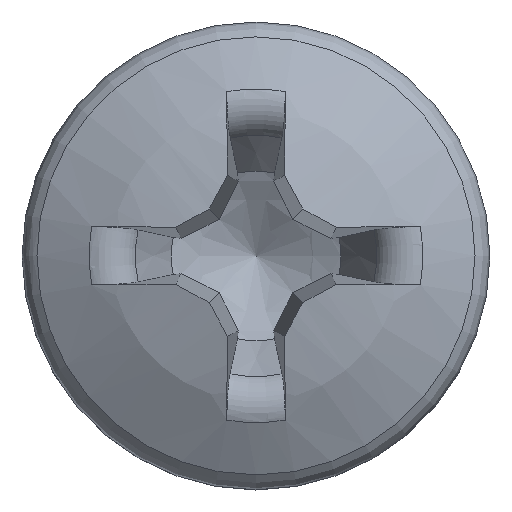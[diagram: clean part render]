
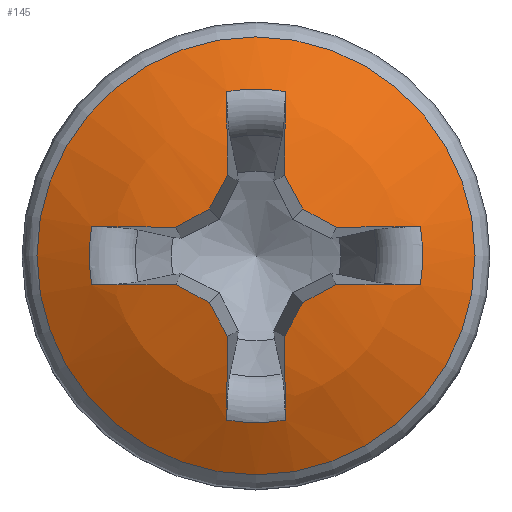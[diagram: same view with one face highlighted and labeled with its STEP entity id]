
A CAD part, top view. The second image highlights one B-rep face of the part: STEP entity #145.
In plain terms, the highlighted spherical face has radius 9.413 mm.
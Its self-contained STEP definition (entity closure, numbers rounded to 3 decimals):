
#116=SPHERICAL_SURFACE('',#881,9.413);
#127=FACE_BOUND('',#246,.T.);
#128=FACE_BOUND('',#247,.T.);
#145=ADVANCED_FACE('',(#127,#128),#116,.T.);
#246=EDGE_LOOP('',(#355));
#247=EDGE_LOOP('',(#356,#357,#358,#359,#360,#361,#362,#363,#364,#365,#366,
#367,#368,#369,#370,#371,#372,#373,#374,#375));
#305=CIRCLE('',#860,4.916);
#306=CIRCLE('',#861,9.41);
#307=CIRCLE('',#862,3.745);
#308=CIRCLE('',#863,9.41);
#309=CIRCLE('',#864,9.401);
#310=CIRCLE('',#865,9.401);
#311=CIRCLE('',#866,9.41);
#312=CIRCLE('',#867,3.745);
#313=CIRCLE('',#868,9.41);
#314=CIRCLE('',#869,9.401);
#315=CIRCLE('',#870,9.401);
#316=CIRCLE('',#871,9.41);
#317=CIRCLE('',#872,3.745);
#318=CIRCLE('',#873,9.41);
#319=CIRCLE('',#874,9.401);
#320=CIRCLE('',#875,9.401);
#321=CIRCLE('',#876,9.41);
#322=CIRCLE('',#877,3.745);
#323=CIRCLE('',#878,9.41);
#324=CIRCLE('',#879,9.401);
#325=CIRCLE('',#880,9.401);
#355=ORIENTED_EDGE('',*,*,#683,.T.);
#356=ORIENTED_EDGE('',*,*,#684,.F.);
#357=ORIENTED_EDGE('',*,*,#685,.T.);
#358=ORIENTED_EDGE('',*,*,#686,.F.);
#359=ORIENTED_EDGE('',*,*,#687,.F.);
#360=ORIENTED_EDGE('',*,*,#688,.F.);
#361=ORIENTED_EDGE('',*,*,#689,.F.);
#362=ORIENTED_EDGE('',*,*,#690,.T.);
#363=ORIENTED_EDGE('',*,*,#691,.F.);
#364=ORIENTED_EDGE('',*,*,#692,.F.);
#365=ORIENTED_EDGE('',*,*,#693,.F.);
#366=ORIENTED_EDGE('',*,*,#694,.F.);
#367=ORIENTED_EDGE('',*,*,#695,.T.);
#368=ORIENTED_EDGE('',*,*,#696,.F.);
#369=ORIENTED_EDGE('',*,*,#697,.F.);
#370=ORIENTED_EDGE('',*,*,#698,.F.);
#371=ORIENTED_EDGE('',*,*,#699,.F.);
#372=ORIENTED_EDGE('',*,*,#700,.T.);
#373=ORIENTED_EDGE('',*,*,#701,.F.);
#374=ORIENTED_EDGE('',*,*,#702,.F.);
#375=ORIENTED_EDGE('',*,*,#703,.F.);
#599=VERTEX_POINT('',#1371);
#600=VERTEX_POINT('',#1373);
#601=VERTEX_POINT('',#1374);
#602=VERTEX_POINT('',#1376);
#603=VERTEX_POINT('',#1378);
#604=VERTEX_POINT('',#1380);
#605=VERTEX_POINT('',#1382);
#606=VERTEX_POINT('',#1384);
#607=VERTEX_POINT('',#1386);
#608=VERTEX_POINT('',#1388);
#609=VERTEX_POINT('',#1390);
#610=VERTEX_POINT('',#1392);
#611=VERTEX_POINT('',#1394);
#612=VERTEX_POINT('',#1396);
#613=VERTEX_POINT('',#1398);
#614=VERTEX_POINT('',#1400);
#615=VERTEX_POINT('',#1402);
#616=VERTEX_POINT('',#1404);
#617=VERTEX_POINT('',#1406);
#618=VERTEX_POINT('',#1408);
#619=VERTEX_POINT('',#1410);
#683=EDGE_CURVE('',#599,#599,#305,.T.);
#684=EDGE_CURVE('',#600,#601,#306,.T.);
#685=EDGE_CURVE('',#600,#602,#307,.T.);
#686=EDGE_CURVE('',#603,#602,#308,.T.);
#687=EDGE_CURVE('',#604,#603,#309,.T.);
#688=EDGE_CURVE('',#605,#604,#310,.T.);
#689=EDGE_CURVE('',#606,#605,#311,.T.);
#690=EDGE_CURVE('',#606,#607,#312,.T.);
#691=EDGE_CURVE('',#608,#607,#313,.T.);
#692=EDGE_CURVE('',#609,#608,#314,.T.);
#693=EDGE_CURVE('',#610,#609,#315,.T.);
#694=EDGE_CURVE('',#611,#610,#316,.T.);
#695=EDGE_CURVE('',#611,#612,#317,.T.);
#696=EDGE_CURVE('',#613,#612,#318,.T.);
#697=EDGE_CURVE('',#614,#613,#319,.T.);
#698=EDGE_CURVE('',#615,#614,#320,.T.);
#699=EDGE_CURVE('',#616,#615,#321,.T.);
#700=EDGE_CURVE('',#616,#617,#322,.T.);
#701=EDGE_CURVE('',#618,#617,#323,.T.);
#702=EDGE_CURVE('',#619,#618,#324,.T.);
#703=EDGE_CURVE('',#601,#619,#325,.T.);
#860=AXIS2_PLACEMENT_3D('',#1370,#943,#944);
#861=AXIS2_PLACEMENT_3D('',#1372,#945,#946);
#862=AXIS2_PLACEMENT_3D('',#1375,#947,#948);
#863=AXIS2_PLACEMENT_3D('',#1377,#949,#950);
#864=AXIS2_PLACEMENT_3D('',#1379,#951,#952);
#865=AXIS2_PLACEMENT_3D('',#1381,#953,#954);
#866=AXIS2_PLACEMENT_3D('',#1383,#955,#956);
#867=AXIS2_PLACEMENT_3D('',#1385,#957,#958);
#868=AXIS2_PLACEMENT_3D('',#1387,#959,#960);
#869=AXIS2_PLACEMENT_3D('',#1389,#961,#962);
#870=AXIS2_PLACEMENT_3D('',#1391,#963,#964);
#871=AXIS2_PLACEMENT_3D('',#1393,#965,#966);
#872=AXIS2_PLACEMENT_3D('',#1395,#967,#968);
#873=AXIS2_PLACEMENT_3D('',#1397,#969,#970);
#874=AXIS2_PLACEMENT_3D('',#1399,#971,#972);
#875=AXIS2_PLACEMENT_3D('',#1401,#973,#974);
#876=AXIS2_PLACEMENT_3D('',#1403,#975,#976);
#877=AXIS2_PLACEMENT_3D('',#1405,#977,#978);
#878=AXIS2_PLACEMENT_3D('',#1407,#979,#980);
#879=AXIS2_PLACEMENT_3D('',#1409,#981,#982);
#880=AXIS2_PLACEMENT_3D('',#1411,#983,#984);
#881=AXIS2_PLACEMENT_3D('',#1412,#985,#986);
#943=DIRECTION('',(0.,0.,1.));
#944=DIRECTION('',(-1.,0.,0.));
#945=DIRECTION('',(-0.035,0.996,0.087));
#946=DIRECTION('',(0.,-0.087,0.996));
#947=DIRECTION('',(0.,0.,-1.));
#948=DIRECTION('',(-1.,0.,0.));
#949=DIRECTION('',(-0.035,-0.996,0.087));
#950=DIRECTION('',(0.,-0.087,-0.996));
#951=DIRECTION('',(0.467,-0.879,0.1));
#952=DIRECTION('',(0.883,0.469,0.));
#953=DIRECTION('',(0.879,-0.467,0.1));
#954=DIRECTION('',(0.469,0.883,0.));
#955=DIRECTION('',(0.996,0.035,0.087));
#956=DIRECTION('',(0.087,0.,-0.996));
#957=DIRECTION('',(0.,0.,-1.));
#958=DIRECTION('',(-1.,0.,0.));
#959=DIRECTION('',(-0.996,0.035,0.087));
#960=DIRECTION('',(0.087,0.,0.996));
#961=DIRECTION('',(-0.879,-0.467,0.1));
#962=DIRECTION('',(0.469,-0.883,0.));
#963=DIRECTION('',(-0.467,-0.879,0.1));
#964=DIRECTION('',(0.883,-0.469,0.));
#965=DIRECTION('',(0.035,-0.996,0.087));
#966=DIRECTION('',(0.,-0.087,-0.996));
#967=DIRECTION('',(0.,0.,-1.));
#968=DIRECTION('',(-1.,0.,0.));
#969=DIRECTION('',(0.035,0.996,0.087));
#970=DIRECTION('',(0.,-0.087,0.996));
#971=DIRECTION('',(-0.467,0.879,0.1));
#972=DIRECTION('',(-0.883,-0.469,0.));
#973=DIRECTION('',(-0.879,0.467,0.1));
#974=DIRECTION('',(-0.469,-0.883,0.));
#975=DIRECTION('',(-0.996,-0.035,0.087));
#976=DIRECTION('',(0.087,0.,0.996));
#977=DIRECTION('',(0.,0.,-1.));
#978=DIRECTION('',(-1.,0.,0.));
#979=DIRECTION('',(0.996,-0.035,0.087));
#980=DIRECTION('',(0.087,0.,-0.996));
#981=DIRECTION('',(0.879,0.467,0.1));
#982=DIRECTION('',(-0.469,0.883,0.));
#983=DIRECTION('',(0.467,0.879,0.1));
#984=DIRECTION('',(-0.883,0.469,0.));
#985=DIRECTION('',(0.,0.,1.));
#986=DIRECTION('',(0.,1.,0.));
#1370=CARTESIAN_POINT('',(0.,0.,2.615));
#1371=CARTESIAN_POINT('',(-4.916,0.,2.615));
#1372=CARTESIAN_POINT('',(-0.008,0.229,-5.393));
#1373=CARTESIAN_POINT('',(-3.687,-0.653,3.223));
#1374=CARTESIAN_POINT('',(-1.806,-0.638,3.803));
#1375=CARTESIAN_POINT('',(0.,0.,3.223));
#1376=CARTESIAN_POINT('',(-3.687,0.653,3.223));
#1377=CARTESIAN_POINT('',(-0.008,-0.229,-5.393));
#1378=CARTESIAN_POINT('',(-1.806,0.638,3.803));
#1379=CARTESIAN_POINT('',(-0.225,0.423,-5.461));
#1380=CARTESIAN_POINT('',(-1.05,1.05,3.882));
#1381=CARTESIAN_POINT('',(-0.423,0.225,-5.461));
#1382=CARTESIAN_POINT('',(-0.638,1.806,3.803));
#1383=CARTESIAN_POINT('',(0.229,0.008,-5.393));
#1384=CARTESIAN_POINT('',(-0.653,3.687,3.223));
#1385=CARTESIAN_POINT('',(0.,0.,3.223));
#1386=CARTESIAN_POINT('',(0.653,3.687,3.223));
#1387=CARTESIAN_POINT('',(-0.229,0.008,-5.393));
#1388=CARTESIAN_POINT('',(0.638,1.806,3.803));
#1389=CARTESIAN_POINT('',(0.423,0.225,-5.461));
#1390=CARTESIAN_POINT('',(1.05,1.05,3.882));
#1391=CARTESIAN_POINT('',(0.225,0.423,-5.461));
#1392=CARTESIAN_POINT('',(1.806,0.638,3.803));
#1393=CARTESIAN_POINT('',(0.008,-0.229,-5.393));
#1394=CARTESIAN_POINT('',(3.687,0.653,3.223));
#1395=CARTESIAN_POINT('',(0.,0.,3.223));
#1396=CARTESIAN_POINT('',(3.687,-0.653,3.223));
#1397=CARTESIAN_POINT('',(0.008,0.229,-5.393));
#1398=CARTESIAN_POINT('',(1.806,-0.638,3.803));
#1399=CARTESIAN_POINT('',(0.225,-0.423,-5.461));
#1400=CARTESIAN_POINT('',(1.05,-1.05,3.882));
#1401=CARTESIAN_POINT('',(0.423,-0.225,-5.461));
#1402=CARTESIAN_POINT('',(0.638,-1.806,3.803));
#1403=CARTESIAN_POINT('',(-0.229,-0.008,-5.393));
#1404=CARTESIAN_POINT('',(0.653,-3.687,3.223));
#1405=CARTESIAN_POINT('',(0.,0.,3.223));
#1406=CARTESIAN_POINT('',(-0.653,-3.687,3.223));
#1407=CARTESIAN_POINT('',(0.229,-0.008,-5.393));
#1408=CARTESIAN_POINT('',(-0.638,-1.806,3.803));
#1409=CARTESIAN_POINT('',(-0.423,-0.225,-5.461));
#1410=CARTESIAN_POINT('',(-1.05,-1.05,3.882));
#1411=CARTESIAN_POINT('',(-0.225,-0.423,-5.461));
#1412=CARTESIAN_POINT('',(0.,0.,-5.413));
